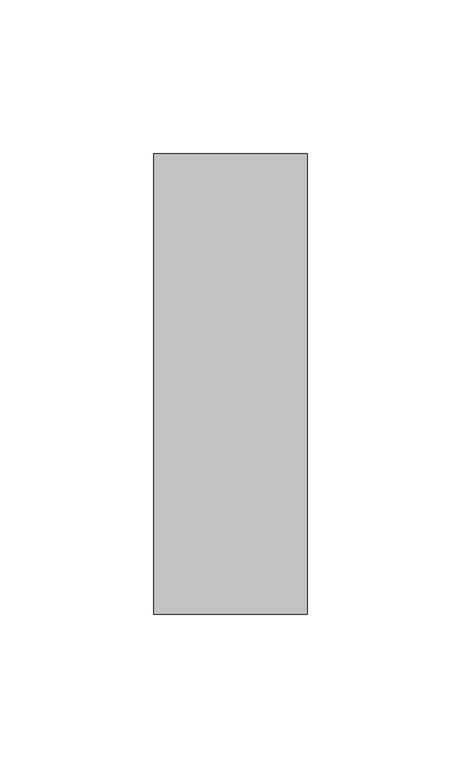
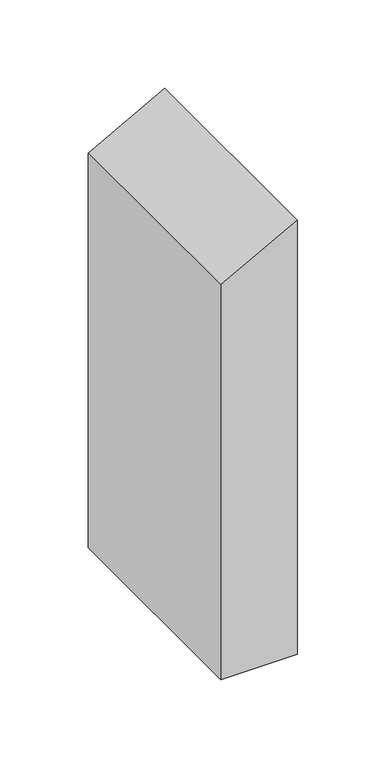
"""IFC4 building model written with IfcOpenShell, lengths in millimetres: member geometry, Прямоугольный импост : 50 x 150 мм."""

from ifc_helpers import new_model, si_unit, frame, origin, place, context, project, spatial, polyline, outline, extrude, source, transform, mapped, element, save


def member_4465684e(model_context):
    return source(origin(), model_context, "Body", "SweptSolid", [
        extrude(outline(polyline([(0.0, 0.0), (-27.1723355, -50.0), (-300.0, -50.0), (-300.0, 0.0), (0.0, 0.0)])), frame((0.0, -75.0, 0.0), z_axis=(0.0, 1.0, 0.0), x_axis=(0.0, 0.0, 1.0)), (0.0, 0.0, 1.0), 150.0),
    ])


if __name__ == "__main__":
    model = new_model("IFC4")
    model_context = context("Model", 3, world=origin())
    ifc_project = project(units=[si_unit("LENGTHUNIT", "METRE", prefix="MILLI")], contexts=[model_context])
    site = spatial("IfcSite", under=ifc_project)
    building = spatial("IfcBuilding", under=site)
    placement = place(None, origin())
    member_shape = member_4465684e(model_context)
    element("IfcMember", 1, ObjectType="Прямоугольный импост : 50 x 150 мм", at=placement, inside=building, context=model_context, shape_type="MappedRepresentation", body=[
        mapped(member_shape, transform((0.0, 0.0, 0.0), x_axis=(1.0, 0.0, 0.0), y_axis=(0.0, 1.0, 0.0), z_axis=(0.0, 0.0, 1.0))),
    ])
    save(model, "model.ifc")
